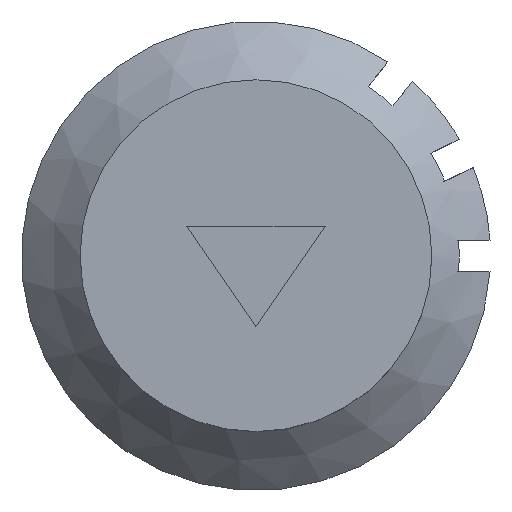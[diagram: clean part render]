
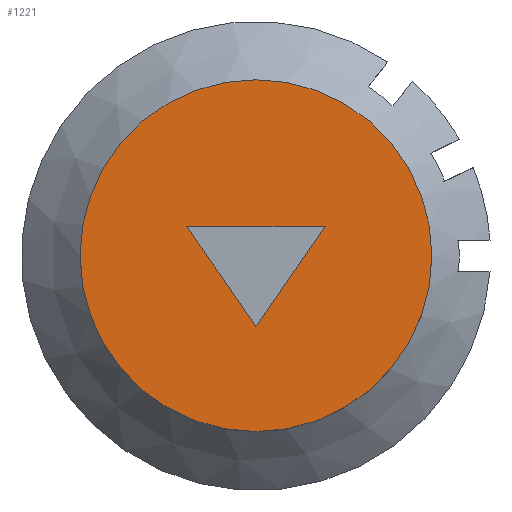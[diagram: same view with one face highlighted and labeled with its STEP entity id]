
A CAD part, top view. The second image highlights one B-rep face of the part: STEP entity #1221.
In plain terms, the highlighted planar face has unit normal (0, 0, 1).
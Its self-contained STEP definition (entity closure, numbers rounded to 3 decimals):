
#801 = CYLINDRICAL_SURFACE('',#802,4.2);
#802 = AXIS2_PLACEMENT_3D('',#803,#804,#805);
#803 = CARTESIAN_POINT('',(5.5,-26.7,24.4));
#804 = DIRECTION('',(-0.,-0.,-1.));
#805 = DIRECTION('',(1.,0.,0.));
#1154 = VERTEX_POINT('',#1155);
#1155 = CARTESIAN_POINT('',(9.7,-26.7,28.8));
#1176 = EDGE_CURVE('',#1154,#1154,#1177,.T.);
#1177 = SURFACE_CURVE('',#1178,(#1183,#1190),.PCURVE_S1.);
#1178 = CIRCLE('',#1179,4.2);
#1179 = AXIS2_PLACEMENT_3D('',#1180,#1181,#1182);
#1180 = CARTESIAN_POINT('',(5.5,-26.7,28.8));
#1181 = DIRECTION('',(0.,0.,1.));
#1182 = DIRECTION('',(1.,0.,0.));
#1183 = PCURVE('',#801,#1184);
#1184 = DEFINITIONAL_REPRESENTATION('',(#1185),#1189);
#1185 = LINE('',#1186,#1187);
#1186 = CARTESIAN_POINT('',(-0.,-4.4));
#1187 = VECTOR('',#1188,1.);
#1188 = DIRECTION('',(-1.,0.));
#1189 = ( GEOMETRIC_REPRESENTATION_CONTEXT(2) 
PARAMETRIC_REPRESENTATION_CONTEXT() REPRESENTATION_CONTEXT('2D SPACE',''
  ) );
#1190 = PCURVE('',#1191,#1196);
#1191 = PLANE('',#1192);
#1192 = AXIS2_PLACEMENT_3D('',#1193,#1194,#1195);
#1193 = CARTESIAN_POINT('',(5.5,-26.7,28.8));
#1194 = DIRECTION('',(0.,0.,1.));
#1195 = DIRECTION('',(1.,0.,-0.));
#1196 = DEFINITIONAL_REPRESENTATION('',(#1197),#1201);
#1197 = CIRCLE('',#1198,4.2);
#1198 = AXIS2_PLACEMENT_2D('',#1199,#1200);
#1199 = CARTESIAN_POINT('',(0.,0.));
#1200 = DIRECTION('',(1.,0.));
#1201 = ( GEOMETRIC_REPRESENTATION_CONTEXT(2) 
PARAMETRIC_REPRESENTATION_CONTEXT() REPRESENTATION_CONTEXT('2D SPACE',''
  ) );
#1221 = ADVANCED_FACE('',(#1222,#1225),#1191,.T.);
#1222 = FACE_BOUND('',#1223,.T.);
#1223 = EDGE_LOOP('',(#1224));
#1224 = ORIENTED_EDGE('',*,*,#1176,.T.);
#1225 = FACE_BOUND('',#1226,.T.);
#1226 = EDGE_LOOP('',(#1227,#1257,#1285));
#1227 = ORIENTED_EDGE('',*,*,#1228,.T.);
#1228 = EDGE_CURVE('',#1229,#1231,#1233,.T.);
#1229 = VERTEX_POINT('',#1230);
#1230 = CARTESIAN_POINT('',(5.5,-28.4,28.8));
#1231 = VERTEX_POINT('',#1232);
#1232 = CARTESIAN_POINT('',(3.85,-26.,28.8));
#1233 = SURFACE_CURVE('',#1234,(#1238,#1245),.PCURVE_S1.);
#1234 = LINE('',#1235,#1236);
#1235 = CARTESIAN_POINT('',(4.278,-26.623,28.8));
#1236 = VECTOR('',#1237,1.);
#1237 = DIRECTION('',(-0.567,0.824,0.));
#1238 = PCURVE('',#1191,#1239);
#1239 = DEFINITIONAL_REPRESENTATION('',(#1240),#1244);
#1240 = LINE('',#1241,#1242);
#1241 = CARTESIAN_POINT('',(-1.222,0.077));
#1242 = VECTOR('',#1243,1.);
#1243 = DIRECTION('',(-0.567,0.824));
#1244 = ( GEOMETRIC_REPRESENTATION_CONTEXT(2) 
PARAMETRIC_REPRESENTATION_CONTEXT() REPRESENTATION_CONTEXT('2D SPACE',''
  ) );
#1245 = PCURVE('',#1246,#1251);
#1246 = PLANE('',#1247);
#1247 = AXIS2_PLACEMENT_3D('',#1248,#1249,#1250);
#1248 = CARTESIAN_POINT('',(3.85,-26.,28.45));
#1249 = DIRECTION('',(0.824,0.567,0.));
#1250 = DIRECTION('',(0.567,-0.824,0.));
#1251 = DEFINITIONAL_REPRESENTATION('',(#1252),#1256);
#1252 = LINE('',#1253,#1254);
#1253 = CARTESIAN_POINT('',(0.756,-0.35));
#1254 = VECTOR('',#1255,1.);
#1255 = DIRECTION('',(-1.,-0.));
#1256 = ( GEOMETRIC_REPRESENTATION_CONTEXT(2) 
PARAMETRIC_REPRESENTATION_CONTEXT() REPRESENTATION_CONTEXT('2D SPACE',''
  ) );
#1257 = ORIENTED_EDGE('',*,*,#1258,.T.);
#1258 = EDGE_CURVE('',#1231,#1259,#1261,.T.);
#1259 = VERTEX_POINT('',#1260);
#1260 = CARTESIAN_POINT('',(7.15,-26.,28.8));
#1261 = SURFACE_CURVE('',#1262,(#1266,#1273),.PCURVE_S1.);
#1262 = LINE('',#1263,#1264);
#1263 = CARTESIAN_POINT('',(6.325,-26.,28.8));
#1264 = VECTOR('',#1265,1.);
#1265 = DIRECTION('',(1.,0.,0.));
#1266 = PCURVE('',#1191,#1267);
#1267 = DEFINITIONAL_REPRESENTATION('',(#1268),#1272);
#1268 = LINE('',#1269,#1270);
#1269 = CARTESIAN_POINT('',(0.825,0.7));
#1270 = VECTOR('',#1271,1.);
#1271 = DIRECTION('',(1.,0.));
#1272 = ( GEOMETRIC_REPRESENTATION_CONTEXT(2) 
PARAMETRIC_REPRESENTATION_CONTEXT() REPRESENTATION_CONTEXT('2D SPACE',''
  ) );
#1273 = PCURVE('',#1274,#1279);
#1274 = PLANE('',#1275);
#1275 = AXIS2_PLACEMENT_3D('',#1276,#1277,#1278);
#1276 = CARTESIAN_POINT('',(7.15,-26.,28.45));
#1277 = DIRECTION('',(0.,-1.,0.));
#1278 = DIRECTION('',(-1.,0.,0.));
#1279 = DEFINITIONAL_REPRESENTATION('',(#1280),#1284);
#1280 = LINE('',#1281,#1282);
#1281 = CARTESIAN_POINT('',(0.825,-0.35));
#1282 = VECTOR('',#1283,1.);
#1283 = DIRECTION('',(-1.,-0.));
#1284 = ( GEOMETRIC_REPRESENTATION_CONTEXT(2) 
PARAMETRIC_REPRESENTATION_CONTEXT() REPRESENTATION_CONTEXT('2D SPACE',''
  ) );
#1285 = ORIENTED_EDGE('',*,*,#1286,.T.);
#1286 = EDGE_CURVE('',#1259,#1229,#1287,.T.);
#1287 = SURFACE_CURVE('',#1288,(#1292,#1299),.PCURVE_S1.);
#1288 = LINE('',#1289,#1290);
#1289 = CARTESIAN_POINT('',(5.897,-27.823,28.8));
#1290 = VECTOR('',#1291,1.);
#1291 = DIRECTION('',(-0.567,-0.824,0.));
#1292 = PCURVE('',#1191,#1293);
#1293 = DEFINITIONAL_REPRESENTATION('',(#1294),#1298);
#1294 = LINE('',#1295,#1296);
#1295 = CARTESIAN_POINT('',(0.397,-1.123));
#1296 = VECTOR('',#1297,1.);
#1297 = DIRECTION('',(-0.567,-0.824));
#1298 = ( GEOMETRIC_REPRESENTATION_CONTEXT(2) 
PARAMETRIC_REPRESENTATION_CONTEXT() REPRESENTATION_CONTEXT('2D SPACE',''
  ) );
#1299 = PCURVE('',#1300,#1305);
#1300 = PLANE('',#1301);
#1301 = AXIS2_PLACEMENT_3D('',#1302,#1303,#1304);
#1302 = CARTESIAN_POINT('',(5.5,-28.4,28.45));
#1303 = DIRECTION('',(-0.824,0.567,0.));
#1304 = DIRECTION('',(0.567,0.824,0.));
#1305 = DEFINITIONAL_REPRESENTATION('',(#1306),#1310);
#1306 = LINE('',#1307,#1308);
#1307 = CARTESIAN_POINT('',(0.7,-0.35));
#1308 = VECTOR('',#1309,1.);
#1309 = DIRECTION('',(-1.,-0.));
#1310 = ( GEOMETRIC_REPRESENTATION_CONTEXT(2) 
PARAMETRIC_REPRESENTATION_CONTEXT() REPRESENTATION_CONTEXT('2D SPACE',''
  ) );
